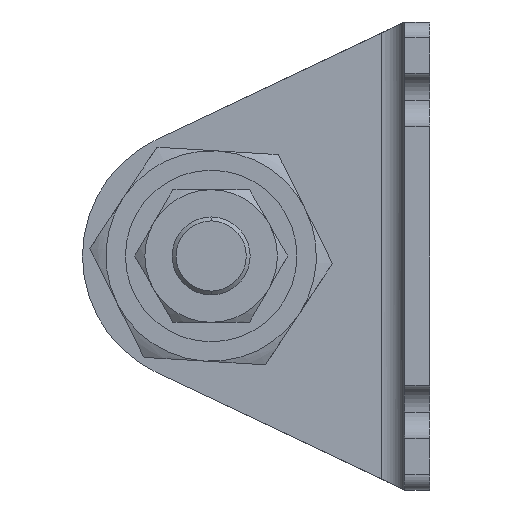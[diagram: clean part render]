
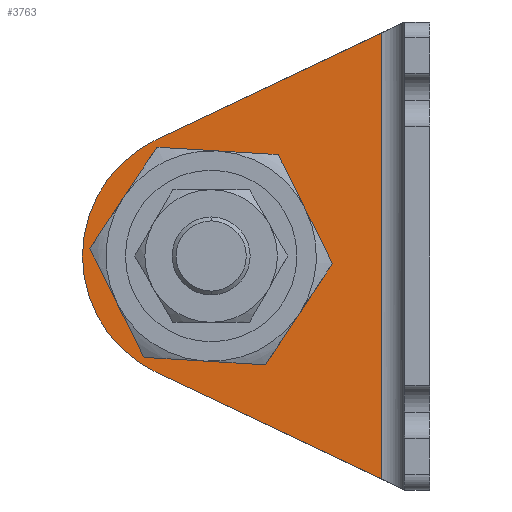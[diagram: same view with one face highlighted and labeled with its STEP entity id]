
A CAD part, left-side view. The second image highlights one B-rep face of the part: STEP entity #3763.
In plain terms, the highlighted planar face has unit normal (-1, 0, 0) as drawn and (1, 0, 0) by its records, which use the part's own axes.
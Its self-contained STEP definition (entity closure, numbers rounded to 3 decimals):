
#24 = DIRECTION ( 'NONE',  ( 0., 1., 0. ) ) ;
#114 = VECTOR ( 'NONE', #1326, 1000. ) ;
#149 = DIRECTION ( 'NONE',  ( 0., 1., 0. ) ) ;
#233 = DIRECTION ( 'NONE',  ( 0., 1., 0. ) ) ;
#235 = AXIS2_PLACEMENT_3D ( 'NONE', #904, #1241, #1955 ) ;
#243 = VERTEX_POINT ( 'NONE', #427 ) ;
#309 = DIRECTION ( 'NONE',  ( 0., 1., 0. ) ) ;
#427 = CARTESIAN_POINT ( 'NONE',  ( 3.2, 6.2, -1.421 ) ) ;
#471 = EDGE_LOOP ( 'NONE', ( #2405, #1768, #3867, #4197, #3860 ) ) ;
#507 = EDGE_CURVE ( 'NONE', #243, #3010, #2915, .T. ) ;
#593 = DIRECTION ( 'NONE',  ( 1., 0., 0. ) ) ;
#670 = EDGE_CURVE ( 'NONE', #4118, #3226, #3451, .T. ) ;
#736 = CIRCLE ( 'NONE', #1304, 16.5 ) ;
#904 = CARTESIAN_POINT ( 'NONE',  ( 3.2, 28., -30. ) ) ;
#986 = DIRECTION ( 'NONE',  ( 0., 0.904, -0.428 ) ) ;
#1013 = CIRCLE ( 'NONE', #235, 11.5 ) ;
#1156 = EDGE_CURVE ( 'NONE', #243, #4118, #3847, .T. ) ;
#1241 = DIRECTION ( 'NONE',  ( 1., 0., 0. ) ) ;
#1275 = CARTESIAN_POINT ( 'NONE',  ( 3.2, 16.5, -30. ) ) ;
#1304 = AXIS2_PLACEMENT_3D ( 'NONE', #2671, #3894, #309 ) ;
#1326 = DIRECTION ( 'NONE',  ( 0., 0.904, 0.428 ) ) ;
#1409 = CIRCLE ( 'NONE', #3889, 11.5 ) ;
#1459 = VERTEX_POINT ( 'NONE', #1784 ) ;
#1549 = PLANE ( 'NONE',  #3042 ) ;
#1605 = FACE_BOUND ( 'NONE', #3369, .T. ) ;
#1768 = ORIENTED_EDGE ( 'NONE', *, *, #1156, .T. ) ;
#1784 = CARTESIAN_POINT ( 'NONE',  ( 3.2, 39.5, -30. ) ) ;
#1809 = VERTEX_POINT ( 'NONE', #3687 ) ;
#1892 = CARTESIAN_POINT ( 'NONE',  ( 3.2, 3.2, -60. ) ) ;
#1955 = DIRECTION ( 'NONE',  ( 0., 1., 0. ) ) ;
#2053 = DIRECTION ( 'NONE',  ( 1., 0., 0. ) ) ;
#2114 = VECTOR ( 'NONE', #2477, 1000. ) ;
#2123 = VECTOR ( 'NONE', #986, 1000. ) ;
#2168 = EDGE_CURVE ( 'NONE', #1809, #3010, #736, .T. ) ;
#2284 = EDGE_CURVE ( 'NONE', #3725, #1459, #1013, .T. ) ;
#2331 = EDGE_CURVE ( 'NONE', #1459, #3725, #1409, .T. ) ;
#2370 = ORIENTED_EDGE ( 'NONE', *, *, #2284, .F. ) ;
#2373 = CARTESIAN_POINT ( 'NONE',  ( 3.2, 35.062, -44.913 ) ) ;
#2395 = AXIS2_PLACEMENT_3D ( 'NONE', #3336, #593, #149 ) ;
#2405 = ORIENTED_EDGE ( 'NONE', *, *, #507, .F. ) ;
#2422 = ORIENTED_EDGE ( 'NONE', *, *, #2331, .F. ) ;
#2458 = DIRECTION ( 'NONE',  ( 1., 0., 0. ) ) ;
#2477 = DIRECTION ( 'NONE',  ( 0., 0., -1. ) ) ;
#2671 = CARTESIAN_POINT ( 'NONE',  ( 3.2, 28., -30. ) ) ;
#2784 = CARTESIAN_POINT ( 'NONE',  ( 3.2, 26.408, -10.99 ) ) ;
#2842 = CARTESIAN_POINT ( 'NONE',  ( 3.2, 6.2, -60. ) ) ;
#2915 = LINE ( 'NONE', #2784, #2123 ) ;
#3010 = VERTEX_POINT ( 'NONE', #3773 ) ;
#3042 = AXIS2_PLACEMENT_3D ( 'NONE', #3893, #2053, #233 ) ;
#3226 = VERTEX_POINT ( 'NONE', #2373 ) ;
#3336 = CARTESIAN_POINT ( 'NONE',  ( 3.2, 28., -30. ) ) ;
#3369 = EDGE_LOOP ( 'NONE', ( #2422, #2370 ) ) ;
#3451 = LINE ( 'NONE', #1892, #114 ) ;
#3608 = EDGE_CURVE ( 'NONE', #3226, #1809, #3772, .T. ) ;
#3631 = CARTESIAN_POINT ( 'NONE',  ( 3.2, 6.2, -58.579 ) ) ;
#3687 = CARTESIAN_POINT ( 'NONE',  ( 3.2, 44.5, -30. ) ) ;
#3725 = VERTEX_POINT ( 'NONE', #1275 ) ;
#3763 = ADVANCED_FACE ( 'NONE', ( #4093, #1605 ), #1549, .T. ) ;
#3772 = CIRCLE ( 'NONE', #2395, 16.5 ) ;
#3773 = CARTESIAN_POINT ( 'NONE',  ( 3.2, 35.062, -15.087 ) ) ;
#3847 = LINE ( 'NONE', #2842, #2114 ) ;
#3860 = ORIENTED_EDGE ( 'NONE', *, *, #2168, .T. ) ;
#3867 = ORIENTED_EDGE ( 'NONE', *, *, #670, .T. ) ;
#3889 = AXIS2_PLACEMENT_3D ( 'NONE', #3972, #2458, #24 ) ;
#3893 = CARTESIAN_POINT ( 'NONE',  ( 3.2, 3.2, -60. ) ) ;
#3894 = DIRECTION ( 'NONE',  ( 1., 0., 0. ) ) ;
#3972 = CARTESIAN_POINT ( 'NONE',  ( 3.2, 28., -30. ) ) ;
#4093 = FACE_OUTER_BOUND ( 'NONE', #471, .T. ) ;
#4118 = VERTEX_POINT ( 'NONE', #3631 ) ;
#4197 = ORIENTED_EDGE ( 'NONE', *, *, #3608, .T. ) ;
